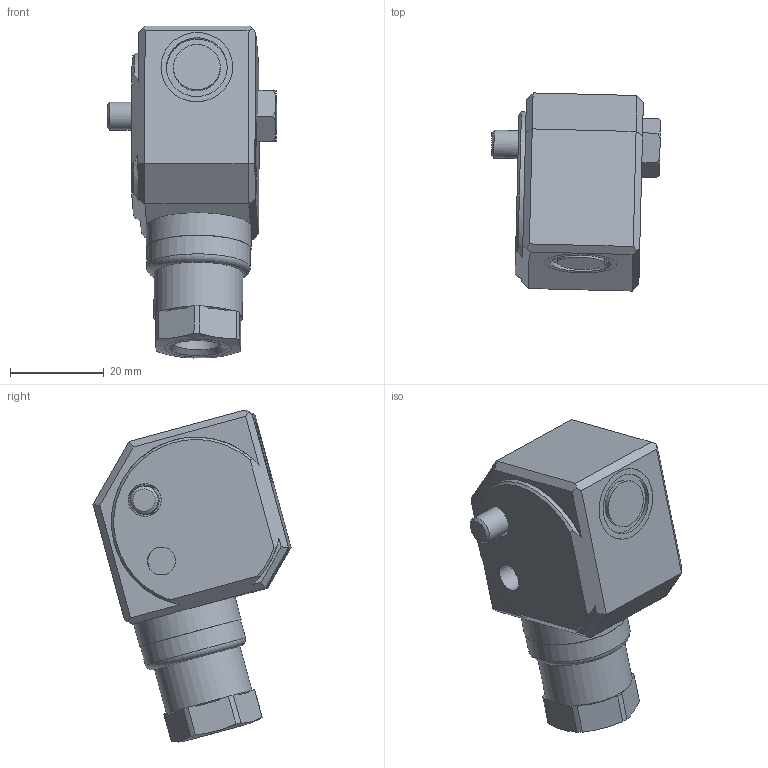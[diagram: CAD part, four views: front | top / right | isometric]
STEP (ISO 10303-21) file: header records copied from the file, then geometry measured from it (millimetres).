
FILE_DESCRIPTION(/* description */ (''),/* implementation_level */ '2;1');
FILE_NAME(/* name */ 'Z:\Engineering\Drawings\3D Library\Assemblies\Website\Triaxial Side\HS-173 PUR\HS-173XXX0106.stp',/* time_stamp */ '2023-03-25T20:43:17+00:00',/* author */ ('Ricardo.Peneda'),/* organization */ (''),/* preprocessor_version */ 'ST-DEVELOPER v18.1',/* originating_system */ 'Autodesk Inventor 2021',/* authorisation */ '');
FILE_SCHEMA (('AUTOMOTIVE_DESIGN { 1 0 10303 214 3 1 1 }'));
Length unit declared in the file: inch
Products named in the file (1): HS-173XXX0106_Shrinkwrap_1
Bounding box: 36.19 x 42.34 x 70.96 mm (x, y, z)
Volume: 28835 mm3; surface area: 16345.6 mm2
Topology: 6 solids, 6 shells, 124 faces, 315 edges, 224 vertices
Faces by surface type: plane 69, cylinder 37, cone 16, torus 1, bspline 1
Full cylindrical faces by diameter (mm): 4.5 x1, 6 x3, 7 x1, 10 x2, 10.109 x1, 12 x1, 13 x2, 13.109 x1, 14 x1, 14.95 x3, 15 x1, 15.109 x1, 15.34 x2, 15.35 x2, 16.109 x1, 18 x1, 19 x1, 19.95 x1, 20.23 x1, 22.2 x1, 22.43 x1
Entity records: 4095 total; most frequent: CARTESIAN_POINT 779, DIRECTION 699, ORIENTED_EDGE 630, EDGE_CURVE 315, AXIS2_PLACEMENT_3D 284, VERTEX_POINT 224, CIRCLE 154, EDGE_LOOP 151
